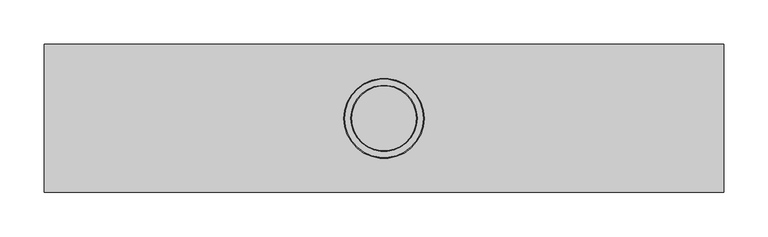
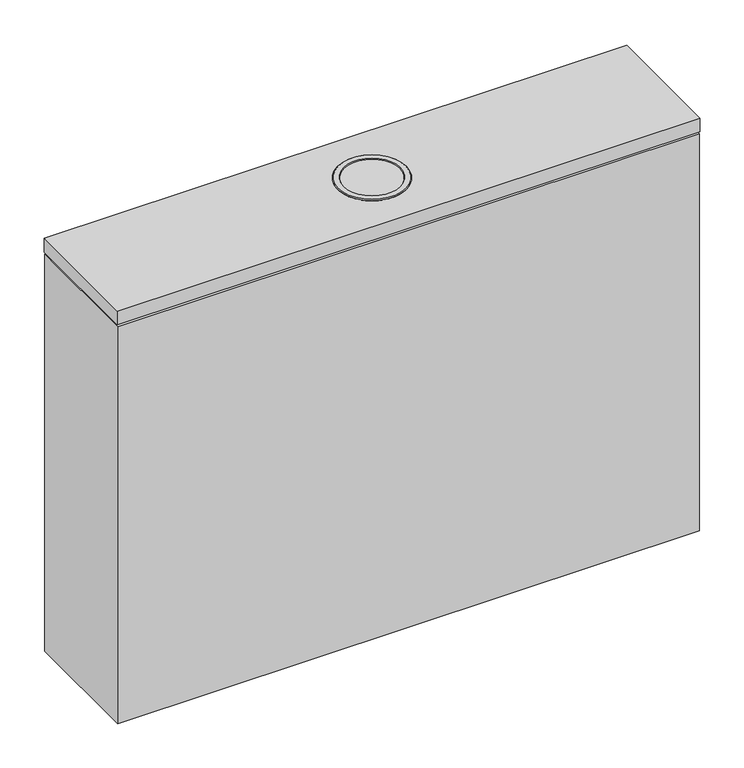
"""IFC4 building model written with IfcOpenShell, lengths in millimetres: furniture geometry, Geiger_GeigerOneCasegoods_LegSupport : Box 30Wx 6.5Dx 22.5H."""

import ifcopenshell
import ifcopenshell.guid

model = None  # the IFC model being written
_history = None  # IfcOwnerHistory: only IFC2X3 demands one
_inside = {}  # id of a spatial element -> (the spatial element, [elements in it])
_under = {}  # id of a project, library or spatial element -> (it, [spatial elements below it])
_declared = {}  # id of a project -> (the project, [libraries it declares])
_typed = {}  # id of a type object -> (the type object, [elements of that type])
_made_of = {}  # id of a material, layer set ... -> (it, [elements and type objects made of it])


def new_model(schema):
    """Start an empty IFC model of exactly this schema.

    Asked for "IFC4X3", IfcOpenShell would pick the latest addendum, in which some entities
    have other attributes; the version numbers below select the first issue.
    IFC2X3 requires an IfcOwnerHistory on every rooted entity: one is made here for all.
    """
    global model, _history
    if schema == "IFC4X3":
        model = ifcopenshell.file(schema_version=(4, 3, 0, 0))
    else:
        model = ifcopenshell.file(schema=schema)
    _inside.clear()
    _under.clear()
    _declared.clear()
    _typed.clear()
    _made_of.clear()
    _history = None
    if model.schema == "IFC2X3":
        org = make("IfcOrganization", Name="unknown")
        user = make(
            "IfcPersonAndOrganization",
            ThePerson=make("IfcPerson", FamilyName="unknown"),
            TheOrganization=org,
        )
        app = make(
            "IfcApplication",
            ApplicationDeveloper=org,
            Version="unknown",
            ApplicationFullName="unknown",
            ApplicationIdentifier="unknown",
        )
        _history = make(
            "IfcOwnerHistory",
            OwningUser=user,
            OwningApplication=app,
            ChangeAction="ADDED",
            CreationDate=0,
        )
    return model


def make(cls, **values):
    """One entity of the class cls with the attributes given. An attribute that is None is left unset."""
    return model.create_entity(
        cls, **{name: value for name, value in values.items() if value is not None}
    )


def rooted(cls, **values):
    """An entity with a GlobalId (a new one), such as an element, a storey or a relation."""
    return make(cls, GlobalId=ifcopenshell.guid.new(), OwnerHistory=_history, **values)


def si_unit(unit_type, name, prefix=None):
    """IfcSIUnit, for example si_unit("LENGTHUNIT", "METRE", prefix="MILLI")."""
    return make("IfcSIUnit", UnitType=unit_type, Prefix=prefix, Name=name)


def assignment(units):
    """IfcUnitAssignment: the units of a project."""
    return None if units is None else make("IfcUnitAssignment", Units=units)


def point(xyz):
    """IfcCartesianPoint."""
    return None if xyz is None else make("IfcCartesianPoint", Coordinates=xyz)


def direction(xyz):
    """IfcDirection."""
    return None if xyz is None else make("IfcDirection", DirectionRatios=xyz)


def frame(location, z_axis=None, x_axis=None):
    """IfcAxis2Placement3D, a coordinate frame: its origin and axes. An axis left out is left unset."""
    return make(
        "IfcAxis2Placement3D",
        Location=point(location),
        Axis=direction(z_axis),
        RefDirection=direction(x_axis),
    )


def frame_2d(location, x_axis=None):
    """IfcAxis2Placement2D, a coordinate frame in the plane: its origin and x axis."""
    return make(
        "IfcAxis2Placement2D", Location=point(location), RefDirection=direction(x_axis)
    )


def origin():
    """The frame at (0, 0, 0) with its axes left unset."""
    return frame((0.0, 0.0, 0.0))


def place(relative_to, where):
    """IfcLocalPlacement: puts the frame where relative to a parent placement (None: the world)."""
    return make(
        "IfcLocalPlacement", PlacementRelTo=relative_to, RelativePlacement=where
    )


def context(
    kind, dimensions, precision=None, world=None, true_north=None, identifier=None
):
    """IfcGeometricRepresentationContext, for example the 3D "Model" context."""
    return make(
        "IfcGeometricRepresentationContext",
        ContextIdentifier=identifier,
        ContextType=kind,
        CoordinateSpaceDimension=dimensions,
        Precision=precision,
        WorldCoordinateSystem=world,
        TrueNorth=true_north,
    )


def project(units=None, contexts=None):
    """IfcProject with its units and contexts."""
    return rooted(
        "IfcProject",
        Name="project",
        RepresentationContexts=contexts,
        UnitsInContext=assignment(units),
    )


def spatial(cls, under=None, at=None, **own):
    """A site, building, storey or space (cls), placed at a placement, below another one or the project."""
    s = rooted(cls, ObjectPlacement=at, **own)
    if under is not None:
        _under.setdefault(under.id(), (under, []))[1].append(s)
    return s


def polyline(points):
    """IfcPolyline through the points."""
    return make("IfcPolyline", Points=[point(p) for p in points])


def circle_curve(where, radius):
    """IfcCircle in the frame where."""
    return make("IfcCircle", Position=where, Radius=radius)


def trimmed(basis, trim1, trim2, sense, master):
    """IfcTrimmedCurve: the piece of a basis curve between two trims."""
    return make(
        "IfcTrimmedCurve",
        BasisCurve=basis,
        Trim1=trim1,
        Trim2=trim2,
        SenseAgreement=sense,
        MasterRepresentation=master,
    )


def segment(curve, same_sense, transition):
    """IfcCompositeCurveSegment."""
    return make(
        "IfcCompositeCurveSegment",
        Transition=transition,
        SameSense=same_sense,
        ParentCurve=curve,
    )


def composite_curve(segments, self_intersect=None):
    """IfcCompositeCurve: segments joined end to end."""
    return make("IfcCompositeCurve", Segments=segments, SelfIntersect=self_intersect)


def outline(outer, holes=None, kind="AREA"):
    """IfcArbitraryClosedProfileDef: a profile drawn as a closed curve; with holes, ...WithVoids."""
    if holes is None:
        return make("IfcArbitraryClosedProfileDef", ProfileType=kind, OuterCurve=outer)
    return make(
        "IfcArbitraryProfileDefWithVoids",
        ProfileType=kind,
        OuterCurve=outer,
        InnerCurves=holes,
    )


def extrude(swept, where, along, depth):
    """IfcExtrudedAreaSolid: the profile swept, set in the frame where, extruded along a direction by depth."""
    return make(
        "IfcExtrudedAreaSolid",
        SweptArea=swept,
        Position=where,
        ExtrudedDirection=direction(along),
        Depth=depth,
    )


def shape(context_of_items, identifier, shape_type, items):
    """IfcShapeRepresentation: the items that make up one representation, for example the "Body"."""
    return make(
        "IfcShapeRepresentation",
        ContextOfItems=context_of_items,
        RepresentationIdentifier=identifier,
        RepresentationType=shape_type,
        Items=items,
    )


def source(mapping_origin, context_of_items, identifier, shape_type, items):
    """IfcRepresentationMap: a shape defined once, which mapped items show again and again."""
    return make(
        "IfcRepresentationMap",
        MappingOrigin=mapping_origin,
        MappedRepresentation=shape(context_of_items, identifier, shape_type, items),
    )


def transform(
    local_origin,
    x_axis=None,
    y_axis=None,
    z_axis=None,
    scale=None,
    scale2=None,
    scale3=None,
    uniform=True,
):
    """IfcCartesianTransformationOperator3D, or its non-uniform kind. x_axis, y_axis, z_axis: its Axis1, 2, 3."""
    if uniform:
        return make(
            "IfcCartesianTransformationOperator3D",
            Axis1=direction(x_axis),
            Axis2=direction(y_axis),
            LocalOrigin=point(local_origin),
            Scale=scale,
            Axis3=direction(z_axis),
        )
    return make(
        "IfcCartesianTransformationOperator3DnonUniform",
        Axis1=direction(x_axis),
        Axis2=direction(y_axis),
        LocalOrigin=point(local_origin),
        Scale=scale,
        Axis3=direction(z_axis),
        Scale2=scale2,
        Scale3=scale3,
    )


def mapped(mapping_source, mapping_target):
    """IfcMappedItem: shows the shape of a source again, moved by a transform."""
    return make(
        "IfcMappedItem", MappingSource=mapping_source, MappingTarget=mapping_target
    )


def made_of(thing, what):
    """Note that an element or type object is made of a material, layer set ...; save() writes the relation."""
    if what is not None:
        _made_of.setdefault(what.id(), (what, []))[1].append(thing)
    return thing


def element(
    cls,
    number,
    at=None,
    inside=None,
    cuts=None,
    type_object=None,
    material=None,
    context=None,
    identifier="Body",
    shape_type=None,
    held_by="IfcProductDefinitionShape",
    body=None,
    shapes=None,
    **own,
):
    """One element of the class cls, such as IfcWall. Its Tag is "e" and its number.

    at: its placement. inside: the storey or other place that contains it. cuts: it is an
    opening in that element (IfcRelVoidsElement). A single representation is given by context,
    identifier, shape_type and body (its items); several are given by shapes. held_by: the class
    of the entity that holds the representations. save() writes the other relations.
    """
    e = rooted(cls, Tag="e%d" % number, ObjectPlacement=at, **own)
    if body is not None:
        shapes = [shape(context, identifier, shape_type, body)]
    if shapes is not None:
        e.Representation = make(held_by, Representations=shapes)
    if inside is not None:
        _inside.setdefault(inside.id(), (inside, []))[1].append(e)
    if cuts is not None:
        rooted(
            "IfcRelVoidsElement", RelatingBuildingElement=cuts, RelatedOpeningElement=e
        )
    if type_object is not None:
        _typed.setdefault(type_object.id(), (type_object, []))[1].append(e)
    return made_of(e, material)


def aggregate(whole, parts):
    """IfcRelAggregates: a whole, such as a stair, and the parts it consists of."""
    return rooted("IfcRelAggregates", RelatingObject=whole, RelatedObjects=parts)


def save(model, path):
    """Write the relations noted so far, then the file.

    IfcRelAggregates (storeys below a building ...), IfcRelContainedInSpatialStructure (elements
    in a storey), IfcRelDefinesByType, IfcRelAssociatesMaterial and IfcRelDeclares: one each for
    every whole, place, type object, material and project.
    """
    for whole, parts in _under.values():
        aggregate(whole, parts)
    for where, things in _inside.values():
        rooted(
            "IfcRelContainedInSpatialStructure",
            RelatedElements=things,
            RelatingStructure=where,
        )
    for kind, things in _typed.values():
        rooted("IfcRelDefinesByType", RelatedObjects=things, RelatingType=kind)
    for what, things in _made_of.values():
        rooted("IfcRelAssociatesMaterial", RelatedObjects=things, RelatingMaterial=what)
    for by, libraries in _declared.values():
        rooted("IfcRelDeclares", RelatingContext=by, RelatedDefinitions=libraries)
    model.write(path)


def plane_surface(at):
    """IfcPlane: the flat surface through the origin of the frame at, square to its z axis."""
    return make("IfcPlane", Position=at)


def revolved_surface(curve, axis_point, axis_direction):
    """IfcSurfaceOfRevolution: the curve turned about the line through axis_point along axis_direction."""
    return make(
        "IfcSurfaceOfRevolution",
        SweptCurve=make("IfcArbitraryOpenProfileDef", ProfileType="CURVE", Curve=curve),
        AxisPosition=make("IfcAxis1Placement", Location=point(axis_point), Axis=direction(axis_direction)),
    )


def advanced_brep(points, edges, surfaces, faces):
    """IfcAdvancedBrep: a solid bounded by faces that lie on surfaces and meet in shared edges.

    An edge is (start, end): straight between two places in points (the first is 0);
    or (start, end, curve); or (start, end, curve, False) where it runs against its curve.
    A face is (place in surfaces, loops), or (place, loops, False) where it looks against
    its surface's normal. A loop lists edges by number (the first is 1), with a minus sign
    where the edge is run from its end to its start. The first loop is the outer one.
    """
    corners = [point(p) for p in points]
    vertices = [make("IfcVertexPoint", VertexGeometry=c) for c in corners]
    made = []
    for start, end, *more in edges:
        made.append(
            make(
                "IfcEdgeCurve",
                EdgeStart=vertices[start],
                EdgeEnd=vertices[end],
                EdgeGeometry=more[0] if more else make("IfcPolyline", Points=[corners[start], corners[end]]),
                SameSense=more[1] if len(more) > 1 else True,
            )
        )
    hull = []
    for where, loops, *sense in faces:
        bounds = []
        for j, loop in enumerate(loops):
            ring = [make("IfcOrientedEdge", EdgeElement=made[abs(k) - 1], Orientation=k > 0) for k in loop]
            bounds.append(
                make(
                    "IfcFaceOuterBound" if j == 0 else "IfcFaceBound",
                    Bound=make("IfcEdgeLoop", EdgeList=ring),
                    Orientation=True,
                )
            )
        hull.append(make("IfcAdvancedFace", Bounds=bounds, FaceSurface=surfaces[where], SameSense=sense[0] if sense else True))
    return make("IfcAdvancedBrep", Outer=make("IfcClosedShell", CfsFaces=hull))


def furniture_b60a1e1f(model_context):
    return source(origin(), model_context, "Body", "SolidModel", [
        advanced_brep(
        [(-44.0091356, -0.0153369, 583.82), (44.0091356, -0.0153369, 583.82), (37.1149551, -0.0153369, 583.82), (-37.1149551, -0.0153369, 583.82), (-45.0128883, -0.0153369, 582.8199698), (45.0128883, -0.0153369, 582.8199698), (-36.6225286, -0.0153369, 582.8199698), (36.6225286, -0.0153369, 582.8199698)],
        [
            (0, 1, circle_curve(frame((0.0, -0.0153369, 583.82), z_axis=(0.0, 0.0, 1.0), x_axis=(-1.0, 0.0, 0.0)), 44.0091356)),
            (1, 0, circle_curve(frame((0.0, -0.0153369, 583.82), z_axis=(0.0, 0.0, 1.0), x_axis=(1.0, 0.0, 0.0)), 44.0091356)),
            (2, 3, circle_curve(frame((0.0, -0.0153369, 583.82), z_axis=(0.0, 0.0, -1.0), x_axis=(1.0, 0.0, 0.0)), 37.1149551)),
            (3, 2, circle_curve(frame((0.0, -0.0153369, 583.82), z_axis=(0.0, 0.0, -1.0), x_axis=(-1.0, 0.0, 0.0)), 37.1149551)),
            (4, 5, circle_curve(frame((0.0, -0.0153369, 582.8199698), z_axis=(0.0, 0.0, -1.0), x_axis=(1.0, 0.0, 0.0)), 45.0128883)),
            (5, 4, circle_curve(frame((0.0, -0.0153369, 582.8199698), z_axis=(0.0, 0.0, -1.0), x_axis=(-1.0, 0.0, 0.0)), 45.0128883)),
            (6, 7, circle_curve(frame((0.0, -0.0153369, 582.8199698), z_axis=(0.0, 0.0, 1.0), x_axis=(1.0, 0.0, 0.0)), 36.6225286)),
            (7, 6, circle_curve(frame((0.0, -0.0153369, 582.8199698), z_axis=(0.0, 0.0, 1.0), x_axis=(-1.0, 0.0, 0.0)), 36.6225286)),
            (0, 4),
            (5, 1),
            (6, 3),
            (2, 7),
        ],
        [
            plane_surface(frame((0.0, -0.0153369, 583.82), z_axis=(0.0, 0.0, 1.0), x_axis=(0.0, -1.0, 0.0))),
            plane_surface(frame((0.0, -0.0153369, 582.8199698), z_axis=(0.0, 0.0, -1.0), x_axis=(0.0, -1.0, 0.0))),
            revolved_surface(polyline([(-44.00913567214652, -0.0153369, 583.82), (-45.0128883, -0.0153369, 582.8199698)]), (0.0, -0.0153369, 627.6659273), (0.0, 0.0, -1.0)),
            revolved_surface(polyline([(44.00913567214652, -0.0153369, 583.82), (45.0128883, -0.0153369, 582.8199698)]), (0.0, -0.0153369, 627.6659273), (0.0, 0.0, -1.0)),
            revolved_surface(polyline([(-37.1149551, -0.0153369, 583.82), (-36.62252866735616, -0.0153369, 582.8199698)]), (0.0, -0.0153369, 508.4461502), (0.0, 0.0, 1.0)),
        ],
        [
            (0, [[1, 2], [3, 4]]),
            (1, [[5, 6], [7, 8]]),
            (2, [[-1, 9, -6, 10]]),
            (3, [[-2, -10, -5, -9]]),
            (4, [[11, -3, 12, -7]]),
            (4, [[-11, -8, -12, -4]]),
        ],
    ),
        extrude(outline(composite_curve([segment(trimmed(circle_curve(frame_2d((0.0, -0.0153369)), 45.0128883), [point((-45.0128883, -0.0153369))], [point((45.0128883, -0.0153369))], False, "CARTESIAN"), True, "CONTINUOUS"), segment(trimmed(circle_curve(frame_2d((0.0, -0.0153369)), 45.0128883), [point((45.0128883, -0.0153369))], [point((-45.0128883, -0.0153369))], False, "CARTESIAN"), True, "CONTINUOUS")], self_intersect=False)), frame((0.0, 0.0, 582.22), z_axis=(0.0, 0.0, 1.0), x_axis=(1.0, 0.0, 0.0)), (0.0, 0.0, 1.0), 0.5999698),
        extrude(outline(polyline([(-1.5, 82.5), (-1.5, 63.5), (-359.0, 63.5), (-359.0, 82.5), (-1.5, 82.5)])), frame((0.0, 0.0, 11.02), z_axis=(0.0, 0.0, 1.0), x_axis=(1.0, 0.0, 0.0)), (0.0, 0.0, 1.0), 549.0),
        extrude(outline(polyline([(1.5, 82.5), (359.0, 82.5), (359.0, 63.5), (1.5, 63.5), (1.5, 82.5)])), frame((0.0, 0.0, 11.02), z_axis=(0.0, 0.0, 1.0), x_axis=(1.0, 0.0, 0.0)), (0.0, 0.0, 1.0), 549.0),
        extrude(outline(polyline([(362.0, 60.5), (362.0, -63.5), (-362.0, -63.5), (-362.0, 60.5), (362.0, 60.5)])), frame((0.0, 0.0, 13.22), z_axis=(0.0, 0.0, 1.0), x_axis=(1.0, 0.0, 0.0)), (0.0, 0.0, 1.0), 19.0),
        extrude(outline(polyline([(381.5, 83.0), (381.5, -83.0), (-381.5, -83.0), (-381.5, 83.0), (381.5, 83.0)])), frame((0.0, 0.0, 563.22), z_axis=(0.0, 0.0, 1.0), x_axis=(1.0, 0.0, 0.0)), (0.0, 0.0, 1.0), 19.0),
        extrude(outline(polyline([(-381.0, -82.5), (-381.0, 82.5), (-362.0, 82.5), (-362.0, -63.5), (362.0, -63.5), (362.0, 82.5), (381.0, 82.5), (381.0, -82.5), (-381.0, -82.5)])), frame((0.0, 0.0, 11.02), z_axis=(0.0, 0.0, 1.0), x_axis=(1.0, 0.0, 0.0)), (0.0, 0.0, 1.0), 549.0),
    ])


if __name__ == "__main__":
    model = new_model("IFC4")
    model_context = context("Model", 3, world=origin())
    ifc_project = project(units=[si_unit("LENGTHUNIT", "METRE", prefix="MILLI")], contexts=[model_context])
    site = spatial("IfcSite", under=ifc_project)
    building = spatial("IfcBuilding", under=site)
    placement = place(None, origin())
    furniture_shape = furniture_b60a1e1f(model_context)
    element("IfcFurniture", 1, ObjectType="Geiger_GeigerOneCasegoods_LegSupport : Box 30Wx 6.5Dx 22.5H", at=placement, inside=building, context=model_context, shape_type="MappedRepresentation", body=[
        mapped(furniture_shape, transform((0.0, 0.0, 0.0), x_axis=(1.0, 0.0, 0.0), y_axis=(0.0, 1.0, 0.0), z_axis=(0.0, 0.0, 1.0))),
    ])
    save(model, "model.ifc")
